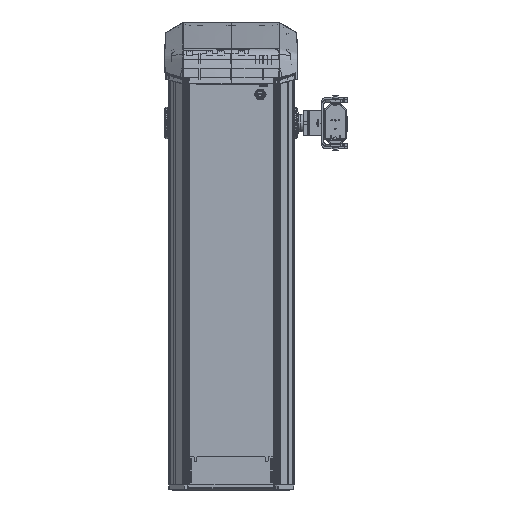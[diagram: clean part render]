
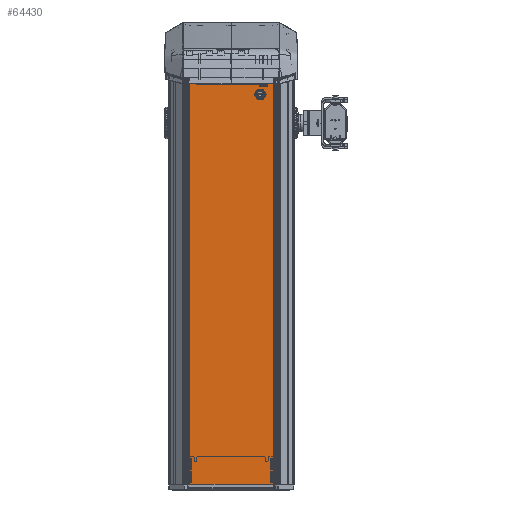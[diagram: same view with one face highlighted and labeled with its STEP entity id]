
A CAD part, front view. The second image highlights one B-rep face of the part: STEP entity #64430.
In plain terms, the highlighted planar face has unit normal (0, -1, 0) as drawn and (0, 1, 0) by its records, which use the part's own axes.
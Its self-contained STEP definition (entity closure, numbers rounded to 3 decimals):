
#3661=CIRCLE('',#74150,1.75);
#3662=CIRCLE('',#74151,10.);
#3663=CIRCLE('',#74152,10.);
#9305=ORIENTED_EDGE('',*,*,#26767,.T.);
#9306=ORIENTED_EDGE('',*,*,#26768,.F.);
#9307=ORIENTED_EDGE('',*,*,#26769,.F.);
#9308=ORIENTED_EDGE('',*,*,#26770,.F.);
#9309=ORIENTED_EDGE('',*,*,#26771,.F.);
#9310=ORIENTED_EDGE('',*,*,#26748,.F.);
#9311=ORIENTED_EDGE('',*,*,#26772,.T.);
#9312=ORIENTED_EDGE('',*,*,#26742,.F.);
#9313=ORIENTED_EDGE('',*,*,#26773,.T.);
#9314=ORIENTED_EDGE('',*,*,#26756,.F.);
#9315=ORIENTED_EDGE('',*,*,#26774,.T.);
#9316=ORIENTED_EDGE('',*,*,#26752,.F.);
#9317=ORIENTED_EDGE('',*,*,#26775,.T.);
#26742=EDGE_CURVE('',#35718,#35719,#41693,.T.);
#26748=EDGE_CURVE('',#35724,#35725,#41699,.T.);
#26752=EDGE_CURVE('',#35728,#35729,#41703,.T.);
#26756=EDGE_CURVE('',#35732,#35733,#41707,.T.);
#26767=EDGE_CURVE('',#35739,#35739,#3661,.T.);
#26768=EDGE_CURVE('',#35740,#35741,#41715,.T.);
#26769=EDGE_CURVE('',#35742,#35740,#3662,.T.);
#26770=EDGE_CURVE('',#35743,#35742,#41716,.T.);
#26771=EDGE_CURVE('',#35741,#35743,#3663,.T.);
#26772=EDGE_CURVE('',#35724,#35719,#41717,.F.);
#26773=EDGE_CURVE('',#35718,#35733,#41718,.F.);
#26774=EDGE_CURVE('',#35732,#35729,#41719,.F.);
#26775=EDGE_CURVE('',#35728,#35725,#41720,.F.);
#35718=VERTEX_POINT('',#109565);
#35719=VERTEX_POINT('',#109566);
#35724=VERTEX_POINT('',#109577);
#35725=VERTEX_POINT('',#109579);
#35728=VERTEX_POINT('',#109586);
#35729=VERTEX_POINT('',#109588);
#35732=VERTEX_POINT('',#109595);
#35733=VERTEX_POINT('',#109597);
#35739=VERTEX_POINT('',#109616);
#35740=VERTEX_POINT('',#109618);
#35741=VERTEX_POINT('',#109619);
#35742=VERTEX_POINT('',#109621);
#35743=VERTEX_POINT('',#109623);
#41693=LINE('',#109564,#47849);
#41699=LINE('',#109578,#47855);
#41703=LINE('',#109587,#47859);
#41707=LINE('',#109596,#47863);
#41715=LINE('',#109617,#47871);
#41716=LINE('',#109622,#47872);
#41717=LINE('',#109625,#47873);
#41718=LINE('',#109626,#47874);
#41719=LINE('',#109627,#47875);
#41720=LINE('',#109628,#47876);
#47849=VECTOR('',#82401,1000.);
#47855=VECTOR('',#82409,1000.);
#47859=VECTOR('',#82415,1000.);
#47863=VECTOR('',#82421,1000.);
#47871=VECTOR('',#82441,1000.);
#47872=VECTOR('',#82444,1000.);
#47873=VECTOR('',#82447,1000.);
#47874=VECTOR('',#82448,1000.);
#47875=VECTOR('',#82449,1000.);
#47876=VECTOR('',#82450,1000.);
#53940=EDGE_LOOP('',(#9305));
#53941=EDGE_LOOP('',(#9306,#9307,#9308,#9309));
#53942=EDGE_LOOP('',(#9310,#9311,#9312,#9313,#9314,#9315,#9316,#9317));
#58214=FACE_BOUND('',#53940,.T.);
#58215=FACE_BOUND('',#53941,.T.);
#58216=FACE_BOUND('',#53942,.T.);
#62023=PLANE('',#74149);
#64430=ADVANCED_FACE('',(#58214,#58215,#58216),#62023,.F.);
#74149=AXIS2_PLACEMENT_3D('',#109614,#82437,#82438);
#74150=AXIS2_PLACEMENT_3D('',#109615,#82439,#82440);
#74151=AXIS2_PLACEMENT_3D('',#109620,#82442,#82443);
#74152=AXIS2_PLACEMENT_3D('',#109624,#82445,#82446);
#82401=DIRECTION('',(0.,0.,-1.));
#82409=DIRECTION('',(1.,0.,0.));
#82415=DIRECTION('',(0.,0.,1.));
#82421=DIRECTION('',(-1.,0.,0.));
#82437=DIRECTION('',(0.,-1.,0.));
#82438=DIRECTION('',(0.,0.,-1.));
#82439=DIRECTION('',(0.,-1.,0.));
#82440=DIRECTION('',(0.,0.,-1.));
#82441=DIRECTION('',(0.,0.,1.));
#82442=DIRECTION('',(0.,1.,0.));
#82443=DIRECTION('',(1.,0.,0.));
#82444=DIRECTION('',(0.,0.,-1.));
#82445=DIRECTION('',(0.,1.,0.));
#82446=DIRECTION('',(1.,0.,0.));
#82447=DIRECTION('',(0.707,0.,-0.707));
#82448=DIRECTION('',(-0.707,0.,-0.707));
#82449=DIRECTION('',(-0.707,0.,0.707));
#82450=DIRECTION('',(0.707,0.,0.707));
#109564=CARTESIAN_POINT('',(-108.,0.,968.5));
#109565=CARTESIAN_POINT('',(-108.,0.,966.5));
#109566=CARTESIAN_POINT('',(-108.,0.,2.));
#109577=CARTESIAN_POINT('',(-106.,0.,0.));
#109578=CARTESIAN_POINT('',(-108.,0.,0.));
#109579=CARTESIAN_POINT('',(106.,0.,0.));
#109586=CARTESIAN_POINT('',(108.,0.,2.));
#109587=CARTESIAN_POINT('',(108.,0.,0.));
#109588=CARTESIAN_POINT('',(108.,0.,966.5));
#109595=CARTESIAN_POINT('',(106.,0.,968.5));
#109596=CARTESIAN_POINT('',(108.,0.,968.5));
#109597=CARTESIAN_POINT('',(-106.,0.,968.5));
#109614=CARTESIAN_POINT('',(-108.,0.,0.));
#109615=CARTESIAN_POINT('',(103.,0.,958.5));
#109616=CARTESIAN_POINT('',(103.,0.,956.75));
#109617=CARTESIAN_POINT('',(60.5,0.,34.741));
#109618=CARTESIAN_POINT('',(60.5,0.,34.741));
#109619=CARTESIAN_POINT('',(60.5,0.,43.459));
#109620=CARTESIAN_POINT('',(69.5,0.,39.1));
#109621=CARTESIAN_POINT('',(78.5,0.,34.741));
#109622=CARTESIAN_POINT('',(78.5,0.,34.741));
#109623=CARTESIAN_POINT('',(78.5,0.,43.459));
#109624=CARTESIAN_POINT('',(69.5,0.,39.1));
#109625=CARTESIAN_POINT('',(-106.,0.,0.));
#109626=CARTESIAN_POINT('',(-108.,0.,966.5));
#109627=CARTESIAN_POINT('',(106.,0.,968.5));
#109628=CARTESIAN_POINT('',(108.,0.,2.));
